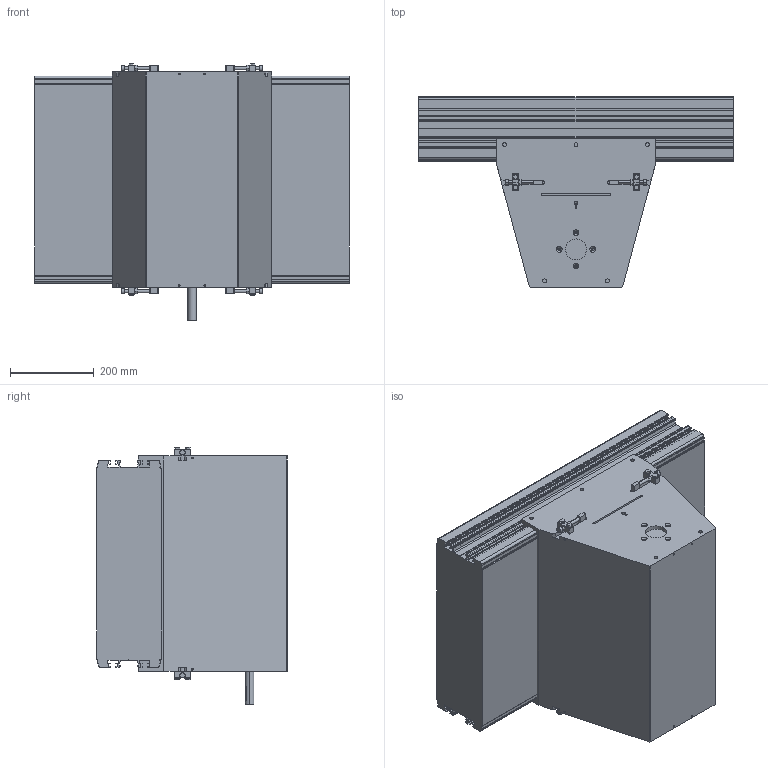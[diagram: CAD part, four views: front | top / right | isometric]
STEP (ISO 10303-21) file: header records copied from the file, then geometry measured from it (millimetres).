
FILE_DESCRIPTION (( 'STEP AP214' ), '1' );
FILE_NAME ('F2 1800 MID.step', '2017-04-05T07:30:30', ( '' ), ( '' ), 'SwSTEP 2.0', 'SolidWorks 2015', '' );
FILE_SCHEMA (( 'AUTOMOTIVE_DESIGN' ));
Length unit declared in the file: millimetre
Products named in the file (1): F2 1800 MID
Bounding box: 750 x 454.7 x 613.4 mm (x, y, z)
Volume: 111890922.4 mm3; surface area: 2378747.6 mm2
Topology: 31 solids, 35 shells, 668 faces, 1655 edges, 1044 vertices
Faces by surface type: plane 351, cylinder 233, cone 68, torus 16
Entity records: 23429 total; most frequent: DIRECTION 3449, CARTESIAN_POINT 3387, ORIENTED_EDGE 3206, EDGE_CURVE 1603, AXIS2_PLACEMENT_3D 1180, LINE 1089, VECTOR 1089, VERTEX_POINT 1044
